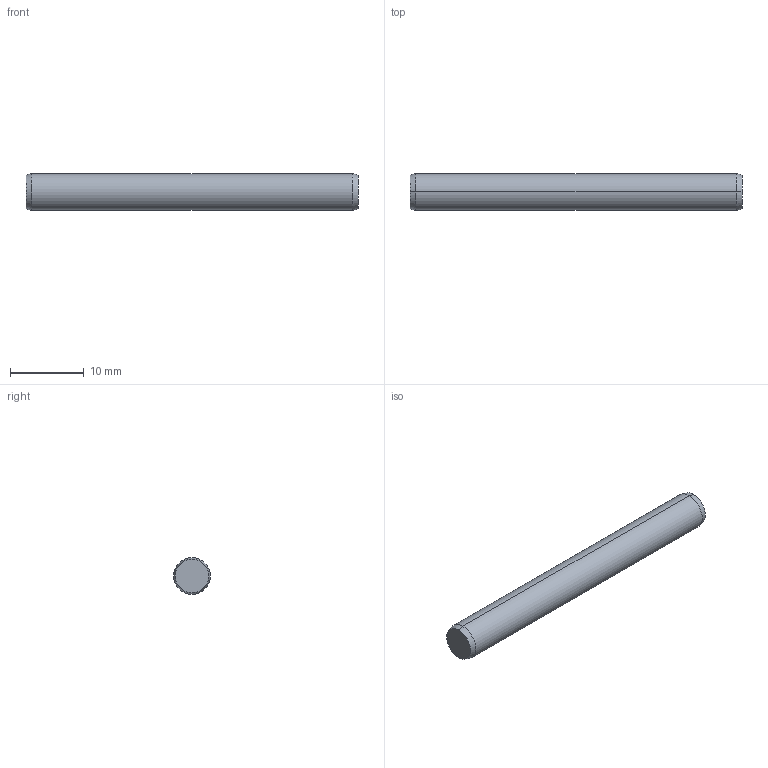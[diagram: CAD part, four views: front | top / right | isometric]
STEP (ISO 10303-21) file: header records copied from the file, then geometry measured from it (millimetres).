
FILE_DESCRIPTION (( 'STEP AP203' ), '1' );
FILE_NAME ('P1206.050-045.step', '2017-06-14T08:17:53', ( 'User' ), ( '' ), 'SwSTEP 2.0', 'SolidWorks 2009', '' );
FILE_SCHEMA (( 'CONFIG_CONTROL_DESIGN' ));
Length unit declared in the file: millimetre
Products named in the file (1): P1206.050-045
Bounding box: 45 x 5 x 5 mm (x, y, z)
Volume: 881 mm3; surface area: 739.5 mm2
Topology: 1 solids, 1 shells, 8 faces, 14 edges, 8 vertices
Faces by surface type: cone 4, cylinder 2, plane 2
Entity records: 271 total; most frequent: DIRECTION 40, CARTESIAN_POINT 31, ORIENTED_EDGE 28, AXIS2_PLACEMENT_3D 17, EDGE_CURVE 14, VERTEX_POINT 8, EDGE_LOOP 8, ADVANCED_FACE 8
